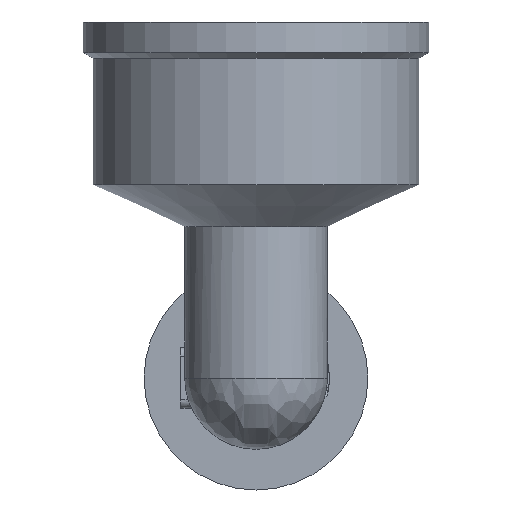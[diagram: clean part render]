
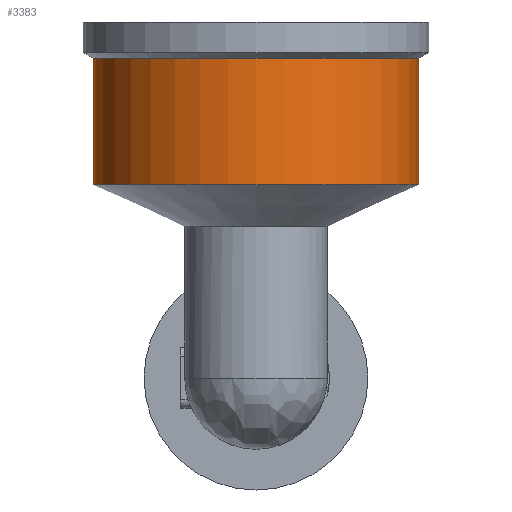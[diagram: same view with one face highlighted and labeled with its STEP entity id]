
A CAD part, front view. The second image highlights one B-rep face of the part: STEP entity #3383.
In plain terms, the highlighted cylindrical face has radius 16 mm (diameter 32 mm), a full revolution.
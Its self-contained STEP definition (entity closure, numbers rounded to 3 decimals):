
#317=FACE_OUTER_BOUND('',#511,.T.);
#511=EDGE_LOOP('',(#2925,#2926,#2927,#2928,#2929,#2930));
#779=CIRCLE('',#3502,16.);
#780=CIRCLE('',#3503,16.);
#847=CIRCLE('',#3634,16.);
#848=CIRCLE('',#3635,16.);
#1018=LINE('',#6878,#1248);
#1248=VECTOR('',#4200,16.);
#1428=VERTEX_POINT('',#4864);
#1429=VERTEX_POINT('',#4866);
#1586=VERTEX_POINT('',#6872);
#1587=VERTEX_POINT('',#6873);
#1792=EDGE_CURVE('',#1428,#1429,#779,.T.);
#1793=EDGE_CURVE('',#1429,#1428,#780,.T.);
#2054=EDGE_CURVE('',#1586,#1587,#847,.T.);
#2055=EDGE_CURVE('',#1587,#1586,#848,.T.);
#2057=EDGE_CURVE('',#1428,#1587,#1018,.T.);
#2925=ORIENTED_EDGE('',*,*,#1793,.F.);
#2926=ORIENTED_EDGE('',*,*,#1792,.F.);
#2927=ORIENTED_EDGE('',*,*,#2057,.T.);
#2928=ORIENTED_EDGE('',*,*,#2055,.T.);
#2929=ORIENTED_EDGE('',*,*,#2054,.T.);
#2930=ORIENTED_EDGE('',*,*,#2057,.F.);
#3240=CYLINDRICAL_SURFACE('',#3636,16.);
#3383=ADVANCED_FACE('',(#317),#3240,.T.);
#3502=AXIS2_PLACEMENT_3D('',#4867,#3804,#3805);
#3503=AXIS2_PLACEMENT_3D('',#4868,#3806,#3807);
#3634=AXIS2_PLACEMENT_3D('',#6874,#4193,#4194);
#3635=AXIS2_PLACEMENT_3D('',#6875,#4195,#4196);
#3636=AXIS2_PLACEMENT_3D('',#6877,#4198,#4199);
#3804=DIRECTION('center_axis',(0.,0.,-1.));
#3805=DIRECTION('ref_axis',(1.,0.,0.));
#3806=DIRECTION('center_axis',(0.,0.,-1.));
#3807=DIRECTION('ref_axis',(1.,0.,0.));
#4193=DIRECTION('center_axis',(0.,0.,-1.));
#4194=DIRECTION('ref_axis',(1.,0.,0.));
#4195=DIRECTION('center_axis',(0.,0.,-1.));
#4196=DIRECTION('ref_axis',(1.,0.,0.));
#4198=DIRECTION('center_axis',(0.,0.,-1.));
#4199=DIRECTION('ref_axis',(0.,1.,0.));
#4200=DIRECTION('',(0.,0.,1.));
#4864=CARTESIAN_POINT('',(0.,-62.,19.));
#4866=CARTESIAN_POINT('',(0.,-30.,19.));
#4867=CARTESIAN_POINT('Origin',(0.,-46.,19.));
#4868=CARTESIAN_POINT('Origin',(0.,-46.,19.));
#6872=CARTESIAN_POINT('',(0.,-30.,31.423));
#6873=CARTESIAN_POINT('',(0.,-62.,31.423));
#6874=CARTESIAN_POINT('Origin',(0.,-46.,31.423));
#6875=CARTESIAN_POINT('Origin',(0.,-46.,31.423));
#6877=CARTESIAN_POINT('Origin',(0.,-46.,25.211));
#6878=CARTESIAN_POINT('',(0.,-62.,25.211));
